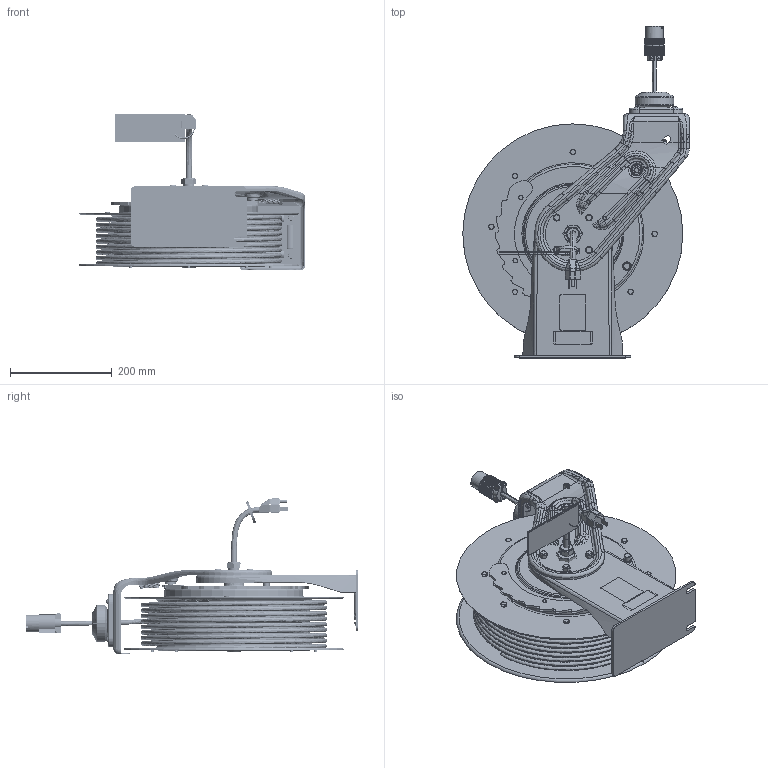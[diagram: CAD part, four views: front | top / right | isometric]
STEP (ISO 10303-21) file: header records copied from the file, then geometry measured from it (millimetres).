
FILE_DESCRIPTION((''),'2;1');
FILE_NAME('24Y879-EN-E_PRT','2022-06-21T14:33:03',('qufmd1'),(''),'CREO PARAMETRIC BY PTC INC, 2021072','CREO PARAMETRIC BY PTC INC, 2021072','');
FILE_SCHEMA(('CONFIG_CONTROL_DESIGN'));
Products named in the file (1): 24Y879-EN-E_PRT
Bounding box: 445.5 x 653.28 x 308.39 mm (x, y, z)
Surface area: 2127897.6 mm2 (no closed solid volume)
Topology: 0 solids, 161 shells, 1333 faces, 4239 edges, 2921 vertices
Faces by surface type: cylinder 348, plane 318, bspline 311, cone 210, torus 124, sphere 20, extrusion 2
Entity records: 96947 total; most frequent: CARTESIAN_POINT 63517, ORIENTED_EDGE 6561, DIRECTION 6385, EDGE_CURVE 4231, VERTEX_POINT 2921, AXIS2_PLACEMENT_3D 2547, CIRCLE 1527, B_SPLINE_CURVE_WITH_KNOTS 1417
